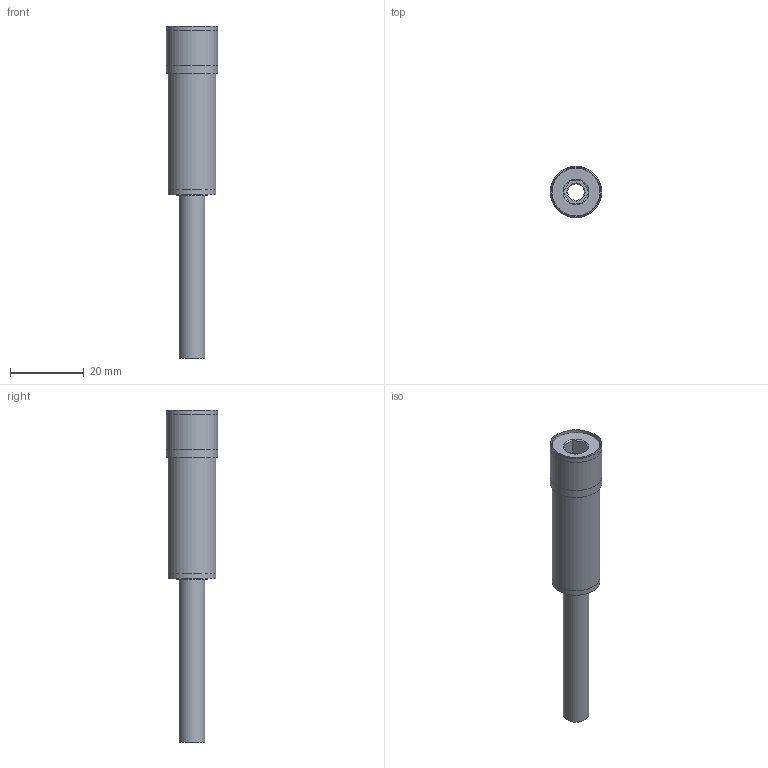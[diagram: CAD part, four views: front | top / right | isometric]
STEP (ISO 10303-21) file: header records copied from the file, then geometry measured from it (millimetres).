
FILE_DESCRIPTION(('STEP AP214'),'1');
FILE_NAME('LC-04SU-CON SEDE.stp','2025-10-28T10:57:44',(' '),(' '),'Spatial InterOp 3D',' ',' ');
FILE_SCHEMA(('AUTOMOTIVE_DESIGN { 1 0 10303 214 1 1 1 1 }'));
Length unit declared in the file: metre
Products named in the file (3): LC-04SU; LC-04SU-SEDE
Bounding box: 14 x 14 x 90.11 mm (x, y, z)
Volume: 5204.4 mm3; surface area: 6140.1 mm2
Topology: 1 solids, 3 shells, 28 faces, 62 edges, 42 vertices
Faces by surface type: plane 13, cylinder 8, cone 6, torus 1
Full cylindrical faces by diameter (mm): 4.5 x1, 7 x1, 7.02 x1, 8.5 x1, 12.9 x1, 13 x1, 14 x1
Entity records: 1011 total; most frequent: CARTESIAN_POINT 154, DIRECTION 124, ORIENTED_EDGE 80, AXIS2_PLACEMENT_3D 55, EDGE_LOOP 49, EDGE_CURVE 43, VERTEX_POINT 37, STYLED_ITEM 32
